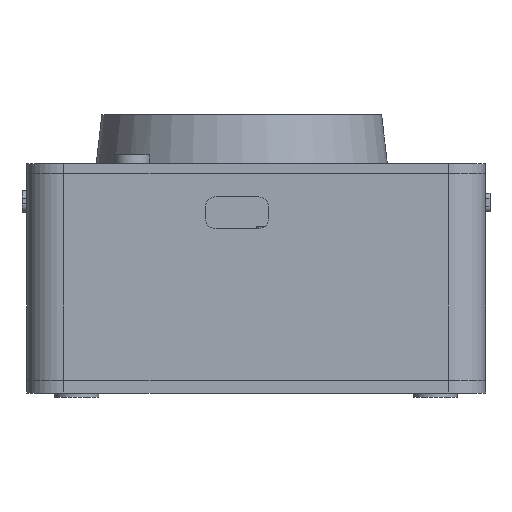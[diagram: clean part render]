
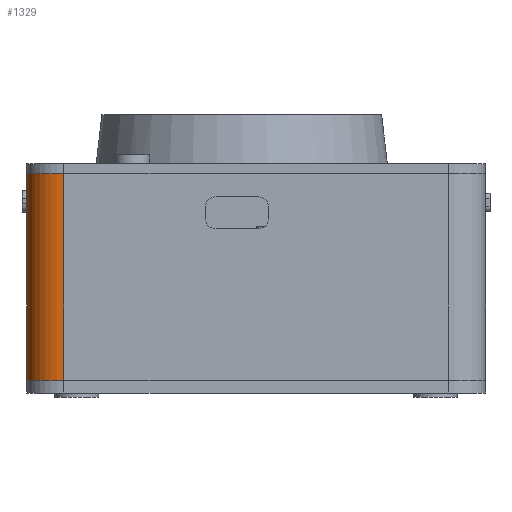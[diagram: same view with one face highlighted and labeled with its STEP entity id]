
A CAD part, front view. The second image highlights one B-rep face of the part: STEP entity #1329.
In plain terms, the highlighted cylindrical face has radius 7.8 mm (diameter 15.6 mm), a partial arc.
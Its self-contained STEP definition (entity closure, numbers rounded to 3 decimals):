
#88 = VERTEX_POINT('',#89);
#89 = CARTESIAN_POINT('',(32.,-213.2,10.85));
#98 = PLANE('',#99);
#99 = AXIS2_PLACEMENT_3D('',#100,#101,#102);
#100 = CARTESIAN_POINT('',(32.,-221.,-32.3));
#101 = DIRECTION('',(1.,0.,0.));
#102 = DIRECTION('',(0.,0.,1.));
#110 = PLANE('',#111);
#111 = AXIS2_PLACEMENT_3D('',#112,#113,#114);
#112 = CARTESIAN_POINT('',(32.,-221.,10.85));
#113 = DIRECTION('',(0.,0.,1.));
#114 = DIRECTION('',(1.,0.,0.));
#122 = EDGE_CURVE('',#123,#88,#125,.T.);
#123 = VERTEX_POINT('',#124);
#124 = CARTESIAN_POINT('',(32.,-213.2,-32.3));
#125 = SURFACE_CURVE('',#126,(#130,#137),.PCURVE_S1.);
#126 = LINE('',#127,#128);
#127 = CARTESIAN_POINT('',(32.,-213.2,-32.3));
#128 = VECTOR('',#129,1.);
#129 = DIRECTION('',(0.,0.,1.));
#130 = PCURVE('',#98,#131);
#131 = DEFINITIONAL_REPRESENTATION('',(#132),#136);
#132 = LINE('',#133,#134);
#133 = CARTESIAN_POINT('',(0.,-7.8));
#134 = VECTOR('',#135,1.);
#135 = DIRECTION('',(1.,0.));
#136 = ( GEOMETRIC_REPRESENTATION_CONTEXT(2) 
PARAMETRIC_REPRESENTATION_CONTEXT() REPRESENTATION_CONTEXT('2D SPACE',''
  ) );
#137 = PCURVE('',#138,#143);
#138 = CYLINDRICAL_SURFACE('',#139,7.8);
#139 = AXIS2_PLACEMENT_3D('',#140,#141,#142);
#140 = CARTESIAN_POINT('',(39.8,-213.2,-32.3));
#141 = DIRECTION('',(0.,0.,1.));
#142 = DIRECTION('',(-1.,-0.,0.));
#143 = DEFINITIONAL_REPRESENTATION('',(#144),#148);
#144 = LINE('',#145,#146);
#145 = CARTESIAN_POINT('',(0.,0.));
#146 = VECTOR('',#147,1.);
#147 = DIRECTION('',(0.,1.));
#148 = ( GEOMETRIC_REPRESENTATION_CONTEXT(2) 
PARAMETRIC_REPRESENTATION_CONTEXT() REPRESENTATION_CONTEXT('2D SPACE',''
  ) );
#166 = PLANE('',#167);
#167 = AXIS2_PLACEMENT_3D('',#168,#169,#170);
#168 = CARTESIAN_POINT('',(32.,-221.,-32.3));
#169 = DIRECTION('',(0.,0.,1.));
#170 = DIRECTION('',(1.,0.,0.));
#652 = EDGE_CURVE('',#88,#653,#655,.T.);
#653 = VERTEX_POINT('',#654);
#654 = CARTESIAN_POINT('',(39.8,-221.,10.85));
#655 = SURFACE_CURVE('',#656,(#661,#668),.PCURVE_S1.);
#656 = CIRCLE('',#657,7.8);
#657 = AXIS2_PLACEMENT_3D('',#658,#659,#660);
#658 = CARTESIAN_POINT('',(39.8,-213.2,10.85));
#659 = DIRECTION('',(0.,0.,1.));
#660 = DIRECTION('',(0.,-1.,0.));
#661 = PCURVE('',#110,#662);
#662 = DEFINITIONAL_REPRESENTATION('',(#663),#667);
#663 = CIRCLE('',#664,7.8);
#664 = AXIS2_PLACEMENT_2D('',#665,#666);
#665 = CARTESIAN_POINT('',(7.8,7.8));
#666 = DIRECTION('',(0.,-1.));
#667 = ( GEOMETRIC_REPRESENTATION_CONTEXT(2) 
PARAMETRIC_REPRESENTATION_CONTEXT() REPRESENTATION_CONTEXT('2D SPACE',''
  ) );
#668 = PCURVE('',#138,#669);
#669 = DEFINITIONAL_REPRESENTATION('',(#670),#674);
#670 = LINE('',#671,#672);
#671 = CARTESIAN_POINT('',(-4.712,43.15));
#672 = VECTOR('',#673,1.);
#673 = DIRECTION('',(1.,0.));
#674 = ( GEOMETRIC_REPRESENTATION_CONTEXT(2) 
PARAMETRIC_REPRESENTATION_CONTEXT() REPRESENTATION_CONTEXT('2D SPACE',''
  ) );
#692 = PLANE('',#693);
#693 = AXIS2_PLACEMENT_3D('',#694,#695,#696);
#694 = CARTESIAN_POINT('',(32.,-221.,-32.3));
#695 = DIRECTION('',(0.,1.,0.));
#696 = DIRECTION('',(0.,0.,1.));
#1329 = ADVANCED_FACE('',(#1330),#138,.T.);
#1330 = FACE_BOUND('',#1331,.T.);
#1331 = EDGE_LOOP('',(#1332,#1356,#1377,#1378));
#1332 = ORIENTED_EDGE('',*,*,#1333,.T.);
#1333 = EDGE_CURVE('',#123,#1334,#1336,.T.);
#1334 = VERTEX_POINT('',#1335);
#1335 = CARTESIAN_POINT('',(39.8,-221.,-32.3));
#1336 = SURFACE_CURVE('',#1337,(#1342,#1349),.PCURVE_S1.);
#1337 = CIRCLE('',#1338,7.8);
#1338 = AXIS2_PLACEMENT_3D('',#1339,#1340,#1341);
#1339 = CARTESIAN_POINT('',(39.8,-213.2,-32.3));
#1340 = DIRECTION('',(0.,0.,1.));
#1341 = DIRECTION('',(0.,-1.,0.));
#1342 = PCURVE('',#138,#1343);
#1343 = DEFINITIONAL_REPRESENTATION('',(#1344),#1348);
#1344 = LINE('',#1345,#1346);
#1345 = CARTESIAN_POINT('',(-4.712,0.));
#1346 = VECTOR('',#1347,1.);
#1347 = DIRECTION('',(1.,0.));
#1348 = ( GEOMETRIC_REPRESENTATION_CONTEXT(2) 
PARAMETRIC_REPRESENTATION_CONTEXT() REPRESENTATION_CONTEXT('2D SPACE',''
  ) );
#1349 = PCURVE('',#166,#1350);
#1350 = DEFINITIONAL_REPRESENTATION('',(#1351),#1355);
#1351 = CIRCLE('',#1352,7.8);
#1352 = AXIS2_PLACEMENT_2D('',#1353,#1354);
#1353 = CARTESIAN_POINT('',(7.8,7.8));
#1354 = DIRECTION('',(0.,-1.));
#1355 = ( GEOMETRIC_REPRESENTATION_CONTEXT(2) 
PARAMETRIC_REPRESENTATION_CONTEXT() REPRESENTATION_CONTEXT('2D SPACE',''
  ) );
#1356 = ORIENTED_EDGE('',*,*,#1357,.T.);
#1357 = EDGE_CURVE('',#1334,#653,#1358,.T.);
#1358 = SURFACE_CURVE('',#1359,(#1363,#1370),.PCURVE_S1.);
#1359 = LINE('',#1360,#1361);
#1360 = CARTESIAN_POINT('',(39.8,-221.,-32.3));
#1361 = VECTOR('',#1362,1.);
#1362 = DIRECTION('',(0.,0.,1.));
#1363 = PCURVE('',#138,#1364);
#1364 = DEFINITIONAL_REPRESENTATION('',(#1365),#1369);
#1365 = LINE('',#1366,#1367);
#1366 = CARTESIAN_POINT('',(1.571,0.));
#1367 = VECTOR('',#1368,1.);
#1368 = DIRECTION('',(0.,1.));
#1369 = ( GEOMETRIC_REPRESENTATION_CONTEXT(2) 
PARAMETRIC_REPRESENTATION_CONTEXT() REPRESENTATION_CONTEXT('2D SPACE',''
  ) );
#1370 = PCURVE('',#692,#1371);
#1371 = DEFINITIONAL_REPRESENTATION('',(#1372),#1376);
#1372 = LINE('',#1373,#1374);
#1373 = CARTESIAN_POINT('',(0.,7.8));
#1374 = VECTOR('',#1375,1.);
#1375 = DIRECTION('',(1.,0.));
#1376 = ( GEOMETRIC_REPRESENTATION_CONTEXT(2) 
PARAMETRIC_REPRESENTATION_CONTEXT() REPRESENTATION_CONTEXT('2D SPACE',''
  ) );
#1377 = ORIENTED_EDGE('',*,*,#652,.F.);
#1378 = ORIENTED_EDGE('',*,*,#122,.F.);
